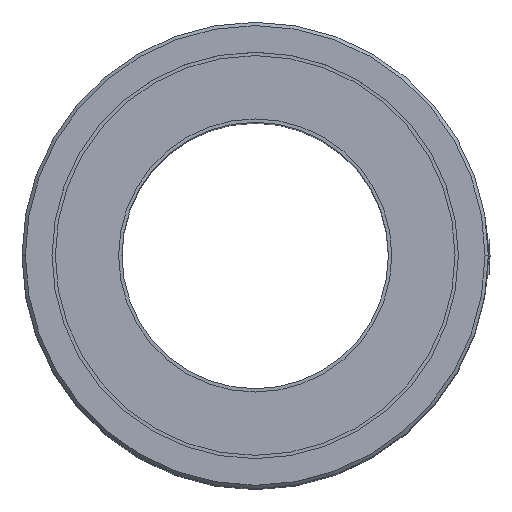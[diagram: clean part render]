
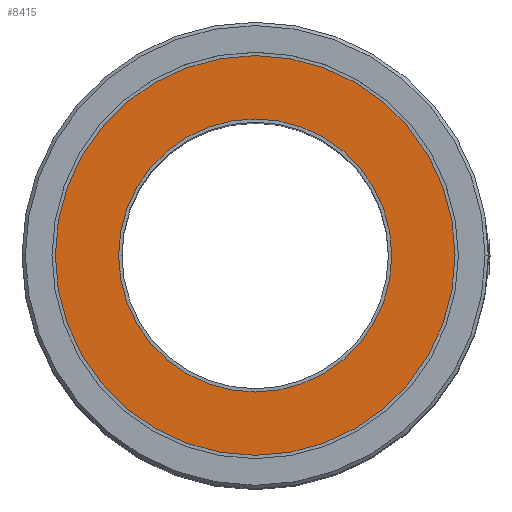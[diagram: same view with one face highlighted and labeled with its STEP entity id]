
A CAD part, top view. The second image highlights one B-rep face of the part: STEP entity #8415.
In plain terms, the highlighted planar face has unit normal (0, 0, 1).
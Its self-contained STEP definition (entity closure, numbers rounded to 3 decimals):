
#191 = AXIS2_PLACEMENT_3D ( 'NONE', #6315, #1787, #7092 ) ;
#240 = CARTESIAN_POINT ( 'NONE',  ( 0., 0., 17.45 ) ) ;
#995 = DIRECTION ( 'NONE',  ( 1., 0., 0. ) ) ;
#1329 = DIRECTION ( 'NONE',  ( 0., 0., 1. ) ) ;
#1349 = VERTEX_POINT ( 'NONE', #4594 ) ;
#1787 = DIRECTION ( 'NONE',  ( 0., 0., 1. ) ) ;
#1972 = CARTESIAN_POINT ( 'NONE',  ( 0., 0., 17.45 ) ) ;
#2146 = AXIS2_PLACEMENT_3D ( 'NONE', #240, #5510, #995 ) ;
#2641 = CIRCLE ( 'NONE', #4806, 8.2 ) ;
#2725 = DIRECTION ( 'NONE',  ( 1., 0., 0. ) ) ;
#3073 = AXIS2_PLACEMENT_3D ( 'NONE', #8066, #3470, #8816 ) ;
#3206 = EDGE_CURVE ( 'NONE', #9203, #1349, #7292, .T. ) ;
#3255 = ORIENTED_EDGE ( 'NONE', *, *, #5306, .T. ) ;
#3389 = VERTEX_POINT ( 'NONE', #7345 ) ;
#3470 = DIRECTION ( 'NONE',  ( 0., 0., 1. ) ) ;
#3853 = VERTEX_POINT ( 'NONE', #7307 ) ;
#4594 = CARTESIAN_POINT ( 'NONE',  ( -12., 0., 17.45 ) ) ;
#4752 = AXIS2_PLACEMENT_3D ( 'NONE', #5836, #1329, #6630 ) ;
#4806 = AXIS2_PLACEMENT_3D ( 'NONE', #1972, #7276, #2725 ) ;
#5155 = ORIENTED_EDGE ( 'NONE', *, *, #9430, .F. ) ;
#5306 = EDGE_CURVE ( 'NONE', #1349, #9203, #9400, .T. ) ;
#5510 = DIRECTION ( 'NONE',  ( 0., 0., 1. ) ) ;
#5836 = CARTESIAN_POINT ( 'NONE',  ( 0., 0., 17.45 ) ) ;
#5917 = EDGE_LOOP ( 'NONE', ( #5155, #7453 ) ) ;
#6315 = CARTESIAN_POINT ( 'NONE',  ( 0., 0., 17.45 ) ) ;
#6375 = ORIENTED_EDGE ( 'NONE', *, *, #3206, .T. ) ;
#6630 = DIRECTION ( 'NONE',  ( 1., 0., 0. ) ) ;
#7056 = PLANE ( 'NONE',  #191 ) ;
#7092 = DIRECTION ( 'NONE',  ( 1., 0., 0. ) ) ;
#7276 = DIRECTION ( 'NONE',  ( 0., 0., 1. ) ) ;
#7292 = CIRCLE ( 'NONE', #2146, 12. ) ;
#7307 = CARTESIAN_POINT ( 'NONE',  ( 8.2, 0., 17.45 ) ) ;
#7313 = CIRCLE ( 'NONE', #3073, 8.2 ) ;
#7345 = CARTESIAN_POINT ( 'NONE',  ( -8.2, 0., 17.45 ) ) ;
#7453 = ORIENTED_EDGE ( 'NONE', *, *, #8144, .F. ) ;
#7596 = CARTESIAN_POINT ( 'NONE',  ( 12., 0., 17.45 ) ) ;
#8066 = CARTESIAN_POINT ( 'NONE',  ( 0., 0., 17.45 ) ) ;
#8144 = EDGE_CURVE ( 'NONE', #3389, #3853, #7313, .T. ) ;
#8415 = ADVANCED_FACE ( 'NONE', ( #8978, #8502 ), #7056, .T. ) ;
#8502 = FACE_OUTER_BOUND ( 'NONE', #9276, .T. ) ;
#8816 = DIRECTION ( 'NONE',  ( 1., 0., 0. ) ) ;
#8978 = FACE_BOUND ( 'NONE', #5917, .T. ) ;
#9203 = VERTEX_POINT ( 'NONE', #7596 ) ;
#9276 = EDGE_LOOP ( 'NONE', ( #6375, #3255 ) ) ;
#9400 = CIRCLE ( 'NONE', #4752, 12. ) ;
#9430 = EDGE_CURVE ( 'NONE', #3853, #3389, #2641, .T. ) ;
